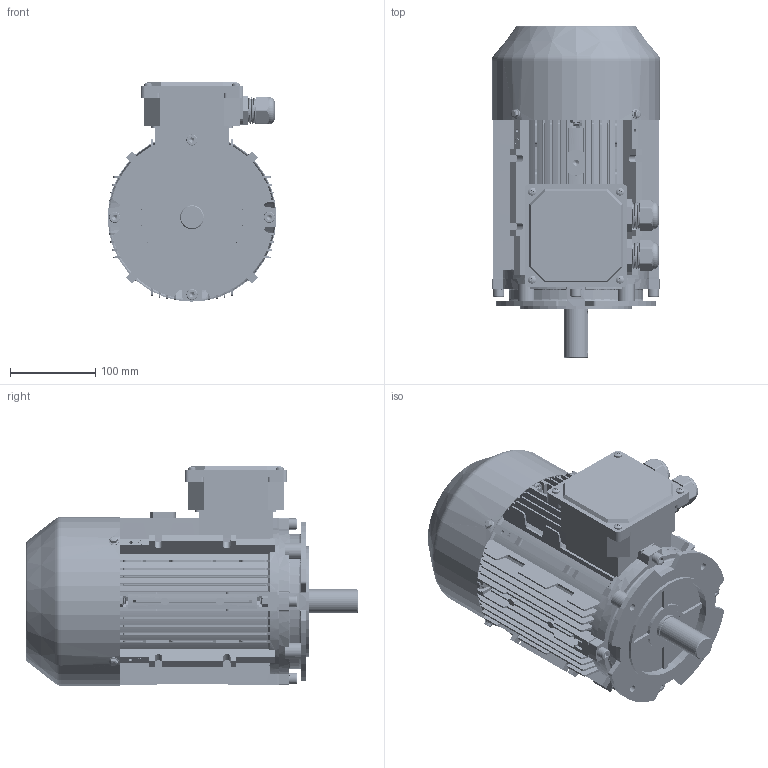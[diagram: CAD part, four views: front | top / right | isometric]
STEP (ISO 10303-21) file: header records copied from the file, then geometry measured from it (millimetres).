
FILE_DESCRIPTION (( 'STEP AP203' ), '1' );
FILE_NAME ('ME3-100B14B 3D.STEP', '2024-07-04T07:45:12', ( 'User' ), ( 'China' ), 'SwSTEP 2.0', 'SolidWorks 2018', '' );
FILE_SCHEMA (( 'CONFIG_CONTROL_DESIGN' ));
Length unit declared in the file: millimetre
Products named in the file (20): cross recessed pan head screws gb_GB_CROSS_SCREWS_TYPE1 M5X8-8  H type-S; circlips for shaft--type b gb_GB_CONNECTING_PIECE_RINGS_CSB 22; MS112-132諉盄碟裔; MS112-132 諉盄碟釱; ME3-100 瑞欶; M24 蹟杶; ME3-100 儂褲; hex flange bolts-heavy grade b gb_GB_FASTENER_BOLT_HFBB M5X10-S; M24 蹟杶簸; ME3-100ヶ傷裔B3; ME3-100B14B; hexagon socket head cap screws gb_GB_FASTENER_SCREWS_HSHCS M8X35-S; deep groove ball bearings gb_Rolling bearings 6206 GB 276-94; ME3-100B14B  3D; hex nuts, style 2-grades ab gb_GB_HEXAGON_TYPE13 M8 Normal Style-S; ME3-100转轴（206.5）; wave single coil spring lock washers gb_GB_FASTENER_WASHER_WSLW 8; 蚐猾45X30X7; hexagon socket head cap screws gb_GB_FASTENER_SCREWS_HSHCS M8X25-S; ME 3 100 瑞珔
Assembly tree (49 placements, depth 2):
  ME3-100B14B  3D
    ME3-100 儂褲
    ME3-100ヶ傷裔B3
    deep groove ball bearings gb_Rolling bearings 6206 GB 276-94  x2
    ME3-100转轴（206.5）
    蚐猾45X30X7
    ME 3 100 瑞珔
    circlips for shaft--type b gb_GB_CONNECTING_PIECE_RINGS_CSB 22
    MS112-132 諉盄碟釱
    M24 蹟杶  x2
    M24 蹟杶簸  x2
    hexagon socket head cap screws gb_GB_FASTENER_SCREWS_HSHCS M8X35-S  x7
    hex nuts, style 2-grades ab gb_GB_HEXAGON_TYPE13 M8 Normal Style-S  x9
    wave single coil spring lock washers gb_GB_FASTENER_WASHER_WSLW 8  x4
    hexagon socket head cap screws gb_GB_FASTENER_SCREWS_HSHCS M8X25-S
    cross recessed pan head screws gb_GB_CROSS_SCREWS_TYPE1 M5X8-8  H type-S  x8
    MS112-132諉盄碟裔
    ME3-100 瑞欶
    hex flange bolts-heavy grade b gb_GB_FASTENER_BOLT_HFBB M5X10-S  x4
    ME3-100B14B
Bounding box: 197.6 x 388.69 x 256.8 mm (x, y, z)
Volume: 1921067 mm3; surface area: 1123504.1 mm2
Topology: 49 solids, 50 shells, 7089 faces, 16965 edges, 9921 vertices
Faces by surface type: cone 2699, cylinder 2149, plane 1824, torus 253, bspline 84, sphere 80
Entity records: 120997 total; most frequent: CARTESIAN_POINT 32916, ORIENTED_EDGE 18224, DIRECTION 17454, EDGE_CURVE 9112, AXIS2_PLACEMENT_3D 6154, VERTEX_POINT 5706, LINE 5146, VECTOR 5146
